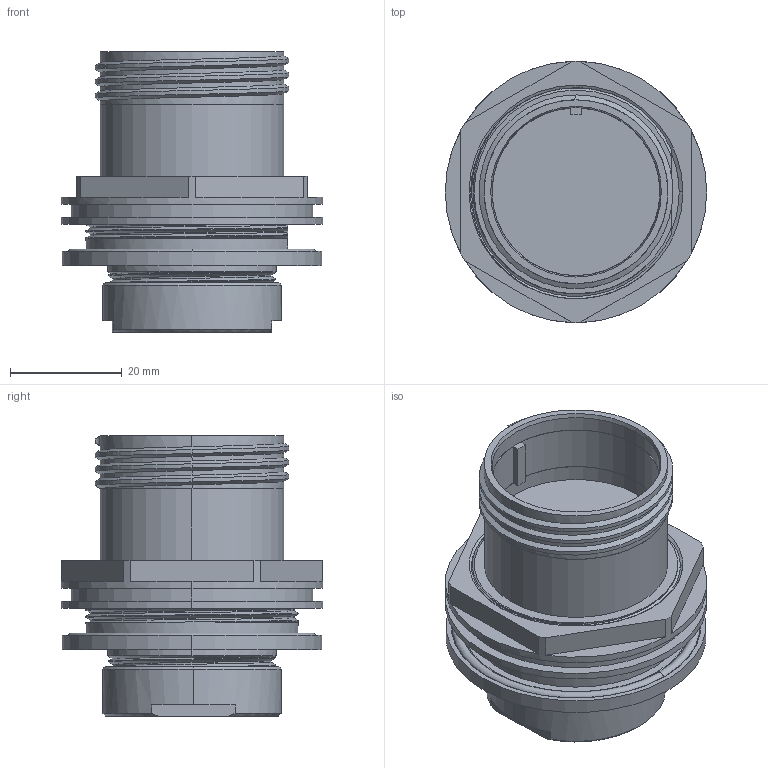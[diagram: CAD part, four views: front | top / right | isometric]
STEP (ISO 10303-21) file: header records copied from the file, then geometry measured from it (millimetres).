
FILE_DESCRIPTION (( 'STEP AP214' ), '1' );
FILE_NAME ('QPLEX3-RJFX-XXXX-SXX.STEP', '2025-04-07T22:44:40', ( '' ), ( '' ), 'SwSTEP 2.0', 'SolidWorks 2024', '' );
FILE_SCHEMA (( 'AUTOMOTIVE_DESIGN' ));
Length unit declared in the file: inch
Products named in the file (1): QPLEX3-RJFX-XXXX-SXX
Bounding box: 46.74 x 46.74 x 50.16 mm (x, y, z)
Volume: 34381.9 mm3; surface area: 17248.7 mm2
Topology: 2 solids, 2 shells, 184 faces, 509 edges, 332 vertices
Faces by surface type: cylinder 72, plane 44, bspline 38, cone 16, torus 14
Entity records: 17789 total; most frequent: CARTESIAN_POINT 13599, ORIENTED_EDGE 1018, DIRECTION 731, EDGE_CURVE 509, VERTEX_POINT 332, AXIS2_PLACEMENT_3D 292, EDGE_LOOP 201, FACE_OUTER_BOUND 184
